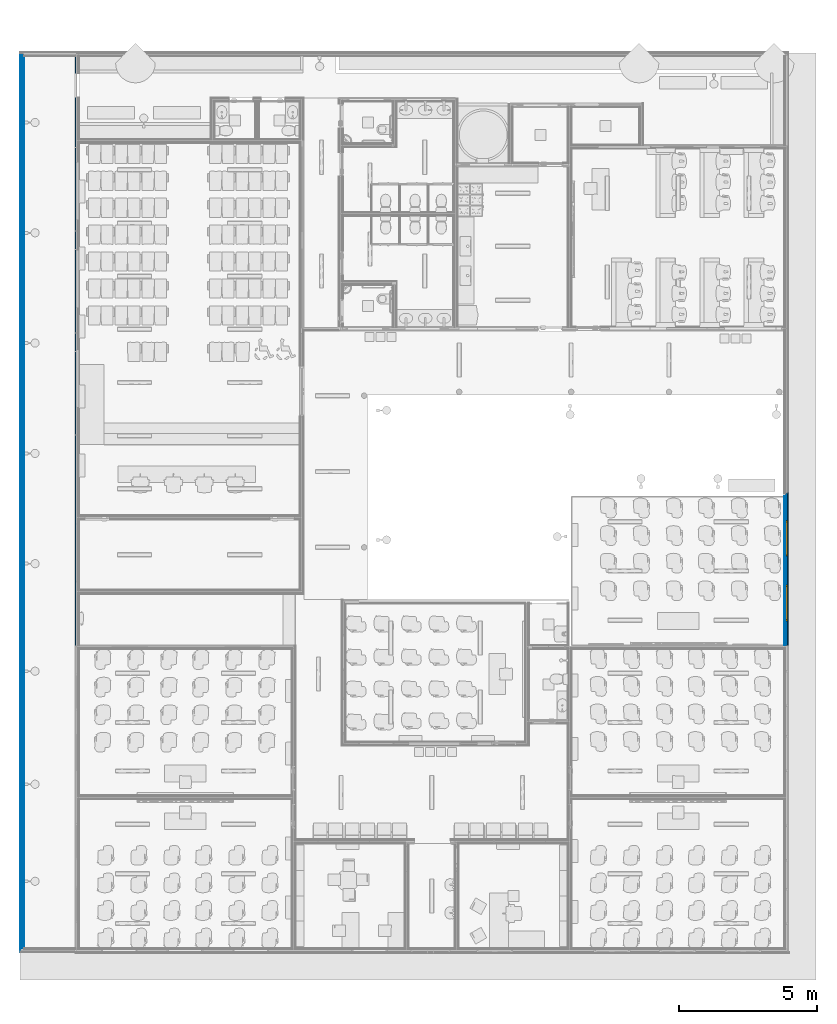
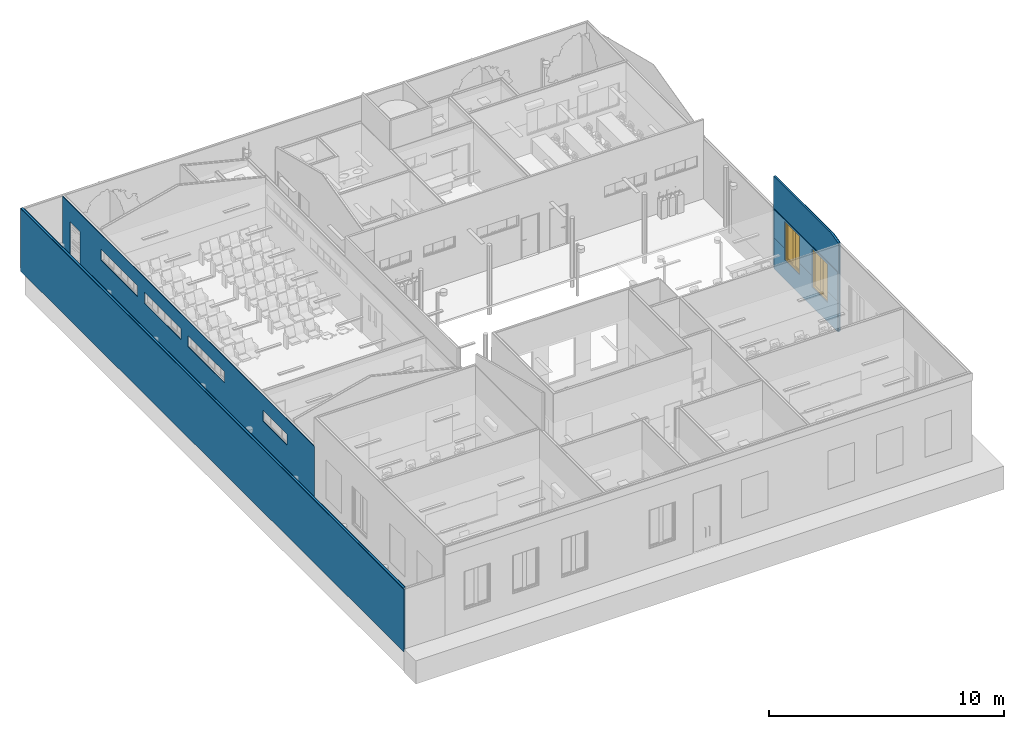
# One storey, part 25 of 155: 8 walls, 2 windows, 13 openings.
"""IFC2X3 building model written with IfcOpenShell, lengths in metres."""

from ifc_helpers import new_model, entity, si_unit, converted_unit, derived_unit, direction, frame, frame_2d, origin, origin_2d_with_axis, place, context, subcontext, project, spatial, polyline, rectangle, outline, extrude, clip, bounded_halfspace, source, transform, mapped, material, layer, layer_set, layer_usage, type_object, type_shapes, element, fill, save


model = new_model("IFC2X3")

# Units and contexts
model_context = context("Model", 3, precision=1e-05, world=origin(), true_north=direction((6.12303176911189e-17, 1.0)))
body_context = subcontext(model_context, "Body", "Model", "MODEL_VIEW")
ifc_project = project(units=[si_unit("LENGTHUNIT", "METRE"), si_unit("AREAUNIT", "SQUARE_METRE"), si_unit("VOLUMEUNIT", "CUBIC_METRE"), converted_unit("PLANEANGLEUNIT", "DEGREE", entity("IfcRatioMeasure", 0.0174532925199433), si_unit("PLANEANGLEUNIT", "RADIAN"), dimensions=[0, 0, 0, 0, 0, 0, 0]), si_unit("MASSUNIT", "GRAM", prefix="KILO"), derived_unit("MASSDENSITYUNIT", [(si_unit("MASSUNIT", "GRAM", prefix="KILO"), 1), (si_unit("LENGTHUNIT", "METRE"), -3)]), si_unit("TIMEUNIT", "SECOND"), si_unit("FREQUENCYUNIT", "HERTZ"), si_unit("THERMODYNAMICTEMPERATUREUNIT", "DEGREE_CELSIUS"), derived_unit("THERMALTRANSMITTANCEUNIT", [(si_unit("MASSUNIT", "GRAM", prefix="KILO"), 1), (si_unit("THERMODYNAMICTEMPERATUREUNIT", "KELVIN"), -1), (si_unit("TIMEUNIT", "SECOND"), -3)]), derived_unit("VOLUMETRICFLOWRATEUNIT", [(si_unit("LENGTHUNIT", "METRE"), 3), (si_unit("TIMEUNIT", "SECOND"), -1)]), si_unit("ELECTRICCURRENTUNIT", "AMPERE"), si_unit("ELECTRICVOLTAGEUNIT", "VOLT"), si_unit("POWERUNIT", "WATT"), si_unit("FORCEUNIT", "NEWTON", prefix="KILO"), si_unit("ILLUMINANCEUNIT", "LUX"), si_unit("LUMINOUSFLUXUNIT", "LUMEN"), si_unit("LUMINOUSINTENSITYUNIT", "CANDELA"), derived_unit("USERDEFINED", [(si_unit("MASSUNIT", "GRAM", prefix="KILO"), -1), (si_unit("LENGTHUNIT", "METRE"), -2), (si_unit("TIMEUNIT", "SECOND"), 3), (si_unit("LUMINOUSFLUXUNIT", "LUMEN"), 1)]), derived_unit("LINEARVELOCITYUNIT", [(si_unit("LENGTHUNIT", "METRE"), 1), (si_unit("TIMEUNIT", "SECOND"), -1)]), si_unit("PRESSUREUNIT", "PASCAL"), derived_unit("USERDEFINED", [(si_unit("LENGTHUNIT", "METRE"), -2), (si_unit("MASSUNIT", "GRAM", prefix="KILO"), 1), (si_unit("TIMEUNIT", "SECOND"), -2)])], contexts=[model_context])

# Site, building, storey
site_placement = place(None, frame((26.9889013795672, -17.5624287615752, 0.0)))
site = spatial("IfcSite", under=ifc_project, at=site_placement, Name="Default", CompositionType="ELEMENT")
building_placement = place(site_placement, origin())
building = spatial("IfcBuilding", under=site, at=building_placement, Name="C. C. L. Monsenhor Antônio Sampaio", CompositionType="ELEMENT")
storey_placement = place(building_placement, frame((0.0, 0.0, 1.19999999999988)))
storey = spatial("IfcBuildingStorey", under=building, at=storey_placement, Name="Nível 1.2", CompositionType="ELEMENT", Elevation=1.19999999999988)

# Wall
ifc_material_1 = material(Name="ALVENARIA")
ifc_layer_1 = layer(ifc_material_1, 0.09)
ifc_layer_set_1 = layer_set([ifc_layer_1], Name="Parede básica:ENucleo parede 15cm")
ifc_layer_usage_1 = layer_usage(ifc_layer_set_1, "AXIS2", "POSITIVE", -0.045)
wall_type_1 = type_object("IfcWallType", Name="Parede básica:ENucleo parede 15cm", PredefinedType="STANDARD", material=ifc_layer_set_1)
wall_1_placement = place(storey_placement, frame((-16.0654980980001, -39.3330663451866, -0.15), z_axis=(0.0, 0.0, 1.0), x_axis=(0.0, 1.0, 0.0)))
element("IfcWallStandardCase", 1, at=wall_1_placement, inside=storey, type_object=wall_type_1, material=ifc_layer_usage_1, Name="Parede básica:ENucleo parede 15cm", ObjectType="Parede básica:ENucleo parede 15cm", context=body_context, shape_type="SweptSolid", body=[
    extrude(rectangle(XDim=32.4999999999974, YDim=0.0900000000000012, at=frame_2d((16.2499999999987, -1.21430643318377e-16), x_axis=(-1.0, 0.0))), origin(), (0.0, 0.0, 1.0), 3.25000000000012),
])

# Wall, openings, windows
ifc_layer_usage_2 = layer_usage(ifc_layer_set_1, "AXIS2", "NEGATIVE", 0.045)
wall_2_placement = place(storey_placement, frame((11.6544477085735, -28.318066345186, 0.0), z_axis=(0.0, 0.0, 1.0), x_axis=(0.0, 1.0, 0.0)))
wall_2 = element("IfcWallStandardCase", 2, at=wall_2_placement, inside=storey, type_object=wall_type_1, material=ifc_layer_usage_2, Name="Parede básica:ENucleo parede 15cm", ObjectType="Parede básica:ENucleo parede 15cm", context=body_context, shape_type="Clipping", body=[
    clip(clip(clip(clip(extrude(rectangle(XDim=5.535, YDim=0.0900000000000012, at=frame_2d((2.7675, -8.98586760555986e-16), x_axis=(-1.0, 0.0))), origin(), (0.0, 0.0, 1.0), 4.75500000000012), bounded_halfspace(frame((0.635000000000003, 0.0449999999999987, 4.75500000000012), z_axis=(-0.242535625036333, 0.0, 0.970142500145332), x_axis=(0.0, -1.0, 0.0)), False, frame((0.635000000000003, 0.0449999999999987, 4.75500000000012)), polyline([(0.0, 0.0), (-0.595746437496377, 0.0), (-0.595746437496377, -0.09), (-0.0899999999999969, -0.0899999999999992), (0.0, 0.0)]))), bounded_halfspace(frame((5.535, -0.045000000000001, 4.72500000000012), z_axis=(0.242535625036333, 0.0, 0.970142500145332), x_axis=(0.0, 1.0, 0.0)), False, frame((5.535, -0.045000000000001, 4.72500000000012)), polyline([(0.0, 0.0), (0.0, 0.089999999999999), (-0.120000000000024, 0.090000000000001), (-0.0300000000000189, 0.0), (0.0, 0.0)]))), bounded_halfspace(frame((5.41499999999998, 0.045, 4.75500000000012), z_axis=(0.0, -0.242535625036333, 0.970142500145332), x_axis=(1.0, 0.0, 0.0)), False, frame((5.41499999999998, 0.045, 4.75500000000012)), polyline([(0.0, 0.0), (-4.77999999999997, 0.0), (-4.86999999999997, -0.0900000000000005), (0.0899999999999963, -0.0900000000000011), (0.0, 0.0)]))), bounded_halfspace(frame((0.0, 0.0449999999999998, 4.60000000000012), z_axis=(0.0, 0.0, 1.0), x_axis=(0.0, 1.0, 0.0)), False, frame((0.0, 0.0449999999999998, 4.60000000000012)), polyline([(0.0, 0.0), (0.0, -0.089999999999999), (0.0149999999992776, -0.089999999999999), (0.0392535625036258, -0.089999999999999), (0.0392535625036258, 0.0), (0.0150000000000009, 0.0), (0.0, 0.0)]))),
])
opening_1_placement = place(wall_2_placement, frame((2.18500000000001, 0.044999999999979, 1.0)))
opening_1 = element("IfcOpeningElement", 3, at=opening_1_placement, cuts=wall_2, Name="Janela levantamento:130 x 200cm 2:1", ObjectType="Opening", context=body_context, shape_type="SweptSolid", body=[
    extrude(rectangle(XDim=2.0, YDim=1.30000000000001, at=frame_2d((0.999999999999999, 0.650000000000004), x_axis=(1.0, 0.0))), frame((0.0, 0.0, 0.0), z_axis=(0.0, -1.0, 0.0), x_axis=(0.0, 0.0, 1.0)), (0.0, 0.0, 1.0), 0.09),
])
opening_2_placement = place(wall_2_placement, frame((4.535, 0.0449999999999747, 1.0)))
opening_2 = element("IfcOpeningElement", 4, at=opening_2_placement, cuts=wall_2, Name="Janela levantamento:130 x 200cm 2:1", ObjectType="Opening", context=body_context, shape_type="SweptSolid", body=[
    extrude(rectangle(XDim=2.0, YDim=1.30000000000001, at=frame_2d((0.999999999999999, 0.650000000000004), x_axis=(1.0, 0.0))), frame((0.0, 0.0, 0.0), z_axis=(0.0, -1.0, 0.0), x_axis=(0.0, 0.0, 1.0)), (0.0, 0.0, 1.0), 0.09),
])
ifc_material_2 = material(Name="Pintura Azul")
window_style = type_object("IfcWindowStyle", Name="130 x 200cm 2", ConstructionType="NOTDEFINED", OperationType="NOTDEFINED", ParameterTakesPrecedence=False, Sizeable=False, material=ifc_material_2)
shared_shape = source(origin(), body_context, "Body", "SweptSolid", [
    extrude(rectangle(XDim=1.3, YDim=0.0209999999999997, at=frame_2d((0.0, 4.33680868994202e-18), x_axis=(1.0, 0.0))), frame((0.650000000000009, 0.0795000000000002, 0.0)), (0.0, 0.0, 1.0), 0.0299999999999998),
    extrude(outline(polyline([(-0.325000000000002, -1.0), (0.325000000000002, -1.0), (0.325000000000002, 1.0), (-0.325000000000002, 1.0), (-0.325000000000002, -1.0)]), holes=[polyline([(0.225000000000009, -0.899999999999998), (-0.225000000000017, -0.899999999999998), (-0.225000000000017, 0.900000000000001), (0.225000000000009, 0.900000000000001), (0.225000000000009, -0.899999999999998)])]), frame((0.325000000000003, 0.0690000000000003, 1.0), z_axis=(0.0, 1.0, 0.0), x_axis=(1.0, 0.0, 0.0)), (0.0, 0.0, 1.0), 0.04),
    extrude(outline(polyline([(-0.650000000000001, -1.0), (0.650000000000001, -1.0), (0.650000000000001, 1.0), (-0.650000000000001, 1.0), (-0.650000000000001, -1.0)]), holes=[polyline([(-0.599999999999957, -0.949999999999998), (-0.599999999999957, 0.94), (0.600000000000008, 0.94), (0.600000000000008, -0.949999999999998), (-0.599999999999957, -0.949999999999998)])]), frame((0.650000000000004, 0.019, 1.0), z_axis=(0.0, 1.0, 0.0), x_axis=(1.0, 0.0, 0.0)), (0.0, 0.0, 1.0), 0.05),
    extrude(rectangle(XDim=0.0205880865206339, YDim=0.450000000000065, at=origin_2d_with_axis()), frame((0.324999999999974, 0.0987059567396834, 0.0999999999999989), z_axis=(0.0, 0.0, 1.0), x_axis=(0.0, 1.0, 0.0)), (0.0, 0.0, 1.0), 1.8),
    extrude(rectangle(XDim=0.0205880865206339, YDim=0.449999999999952, at=frame_2d((0.0, 4.16333634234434e-17), x_axis=(1.0, 0.0))), frame((0.977826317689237, 0.0987059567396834, 0.100000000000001), z_axis=(0.0, 0.0, 1.0), x_axis=(0.0, 1.0, 0.0)), (0.0, 0.0, 1.0), 1.8),
    extrude(outline(polyline([(-1.0, -0.325000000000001), (1.0, -0.325000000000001), (1.0, 0.325000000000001), (-1.0, 0.325000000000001), (-1.0, -0.325000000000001)]), holes=[polyline([(-0.899999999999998, 0.224999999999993), (0.900000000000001, 0.224999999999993), (0.900000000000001, -0.225000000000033), (-0.899999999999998, -0.225000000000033), (-0.899999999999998, 0.224999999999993)])]), frame((0.975000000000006, 0.0690000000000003, 1.0), z_axis=(0.0, 1.0, 0.0), x_axis=(0.0, 0.0, -1.0)), (0.0, 0.0, 1.0), 0.04),
])
type_shapes(window_style, [shared_shape])
window_1_placement = place(opening_1_placement, frame((0.0, 0.0, 0.0), z_axis=(0.0, 0.0, 1.0), x_axis=(-1.0, 0.0, 0.0)))
window_1 = element("IfcWindow", 5, at=window_1_placement, inside=storey, type_object=window_style, material=ifc_material_2, Name="Janela levantamento:130 x 200cm 2", ObjectType="130 x 200cm 2", OverallHeight=2.0, OverallWidth=1.30000000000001, context=body_context, shape_type="MappedRepresentation", body=[
    mapped(shared_shape, transform((0.0, 0.0, 0.0), scale=1.0)),
])
fill(opening_1, window_1)
window_2_placement = place(opening_2_placement, frame((0.0, 0.0, 0.0), z_axis=(0.0, 0.0, 1.0), x_axis=(-1.0, 0.0, 0.0)))
window_2 = element("IfcWindow", 6, at=window_2_placement, inside=storey, type_object=window_style, material=ifc_material_2, Name="Janela levantamento:130 x 200cm 2", ObjectType="130 x 200cm 2", OverallHeight=2.0, OverallWidth=1.30000000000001, context=body_context, shape_type="MappedRepresentation", body=[
    mapped(shared_shape, transform((0.0, 0.0, 0.0), scale=1.0)),
])
fill(opening_2, window_2)

# Wall, openings
ifc_material_3 = material(Name=".CERÂMICA 10x10 BRANCA")
ifc_layer_2 = layer(ifc_material_3, 0.0035)
ifc_material_4 = material(Name="Argamassa Colante")
ifc_layer_3 = layer(ifc_material_4, 0.02)
ifc_material_5 = material(Name="4")
ifc_layer_4 = layer(ifc_material_5, 0.0015)
ifc_material_6 = material(Name="3")
ifc_layer_5 = layer(ifc_material_6, 0.005)
ifc_layer_set_2 = layer_set([ifc_layer_2, ifc_layer_3, ifc_layer_4, ifc_layer_5], Name="Parede básica:ECeramica branca 10x10cm")
ifc_layer_usage_3 = layer_usage(ifc_layer_set_2, "AXIS2", "NEGATIVE", 0.015)
wall_type_2 = type_object("IfcWallType", Name="Parede básica:ECeramica branca 10x10cm", PredefinedType="STANDARD", material=ifc_layer_set_2)
wall_3_placement = place(storey_placement, frame((11.5944477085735, -28.303066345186, 0.0), z_axis=(0.0, 0.0, 1.0), x_axis=(0.0, 1.0, 0.0)))
wall_3 = element("IfcWallStandardCase", 7, at=wall_3_placement, inside=storey, type_object=wall_type_2, material=ifc_layer_usage_3, Name="Parede básica:ECeramica branca 10x10cm", ObjectType="Parede básica:ECeramica branca 10x10cm", context=body_context, shape_type="SweptSolid", body=[
    extrude(rectangle(XDim=5.39999999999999, YDim=0.0300000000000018, at=frame_2d((2.7, 2.72351585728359e-16), x_axis=(-1.0, 0.0))), origin(), (0.0, 0.0, 1.0), 1.6),
])
opening_3_placement = place(wall_3_placement, origin())
element("IfcOpeningElement", 8, at=opening_3_placement, cuts=wall_3, Name="Parede básica:ECeramica branca 10x10cm", ObjectType="Opening", context=body_context, shape_type="SweptSolid", body=[
    extrude(rectangle(XDim=2.0, YDim=1.30000000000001, at=frame_2d((0.0, -3.88578058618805e-16), x_axis=(0.0, 1.0))), frame((1.52, -1.53900000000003, 2.0), z_axis=(0.0, 1.0, 0.0), x_axis=(-1.0, 0.0, 0.0)), (0.0, 0.0, 1.0), 3.048),
])
opening_4_placement = place(wall_3_placement, origin())
element("IfcOpeningElement", 9, at=opening_4_placement, cuts=wall_3, Name="Parede básica:ECeramica branca 10x10cm", ObjectType="Opening", context=body_context, shape_type="SweptSolid", body=[
    extrude(rectangle(XDim=2.0, YDim=1.30000000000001, at=frame_2d((0.0, -3.88578058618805e-16), x_axis=(0.0, 1.0))), frame((3.87, -1.53900000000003, 2.0), z_axis=(0.0, 1.0, 0.0), x_axis=(-1.0, 0.0, 0.0)), (0.0, 0.0, 1.0), 3.048),
])

ifc_material_7 = material(Name="Acabamento Branco")
ifc_layer_6 = layer(ifc_material_7, 0.0035)
ifc_material_8 = material(Name="Massa corrida")
ifc_layer_7 = layer(ifc_material_8, 0.02)
ifc_layer_8 = layer(ifc_material_5, 0.0015)
ifc_layer_9 = layer(ifc_material_6, 0.005)
ifc_layer_set_3 = layer_set([ifc_layer_6, ifc_layer_7, ifc_layer_8, ifc_layer_9], Name="Parede básica:EPintura Branca")
ifc_layer_usage_4 = layer_usage(ifc_layer_set_3, "AXIS2", "NEGATIVE", 0.015)
wall_type_3 = type_object("IfcWallType", Name="Parede básica:EPintura Branca", PredefinedType="STANDARD", material=ifc_layer_set_3)
wall_4_placement = place(storey_placement, frame((11.5944477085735, -28.303066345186, 1.6), z_axis=(0.0, 0.0, 1.0), x_axis=(0.0, 1.0, 0.0)))
wall_4 = element("IfcWallStandardCase", 10, at=wall_4_placement, inside=storey, type_object=wall_type_3, material=ifc_layer_usage_4, Name="Parede básica:EPintura Branca", ObjectType="Parede básica:EPintura Branca", context=body_context, shape_type="SweptSolid", body=[
    extrude(rectangle(XDim=5.39999999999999, YDim=0.0300000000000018, at=frame_2d((2.7, 2.72351585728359e-16), x_axis=(-1.0, 0.0))), origin(), (0.0, 0.0, 1.0), 1.50000000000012),
])
opening_5_placement = place(wall_4_placement, origin())
element("IfcOpeningElement", 11, at=opening_5_placement, cuts=wall_4, Name="Parede básica:EPintura Branca", ObjectType="Opening", context=body_context, shape_type="SweptSolid", body=[
    extrude(rectangle(XDim=2.0, YDim=1.30000000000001, at=frame_2d((0.0, -3.88578058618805e-16), x_axis=(0.0, 1.0))), frame((1.52, -1.53900000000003, 0.400000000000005), z_axis=(0.0, 1.0, 0.0), x_axis=(-1.0, 0.0, 0.0)), (0.0, 0.0, 1.0), 3.048),
])
opening_6_placement = place(wall_4_placement, origin())
element("IfcOpeningElement", 12, at=opening_6_placement, cuts=wall_4, Name="Parede básica:EPintura Branca", ObjectType="Opening", context=body_context, shape_type="SweptSolid", body=[
    extrude(rectangle(XDim=2.0, YDim=1.30000000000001, at=frame_2d((0.0, -3.88578058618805e-16), x_axis=(0.0, 1.0))), frame((3.87, -1.53900000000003, 0.400000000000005), z_axis=(0.0, 1.0, 0.0), x_axis=(-1.0, 0.0, 0.0)), (0.0, 0.0, 1.0), 3.048),
])

ifc_material_9 = material(Name="Acabamento amarelo")
ifc_layer_10 = layer(ifc_material_9, 0.0035)
ifc_layer_11 = layer(ifc_material_8, 0.02)
ifc_layer_12 = layer(ifc_material_5, 0.0015)
ifc_layer_13 = layer(ifc_material_6, 0.005)
ifc_layer_set_4 = layer_set([ifc_layer_10, ifc_layer_11, ifc_layer_12, ifc_layer_13], Name="Parede básica:EPintura amarela")
ifc_layer_usage_5 = layer_usage(ifc_layer_set_4, "AXIS2", "POSITIVE", -0.015)
wall_type_4 = type_object("IfcWallType", Name="Parede básica:EPintura amarela", PredefinedType="STANDARD", material=ifc_layer_set_4)
wall_5_placement = place(storey_placement, frame((11.7144477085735, -28.3030663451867, 0.0), z_axis=(0.0, 0.0, 1.0), x_axis=(0.0, 1.0, 0.0)))
wall_5 = element("IfcWallStandardCase", 13, at=wall_5_placement, inside=storey, type_object=wall_type_4, material=ifc_layer_usage_5, Name="Parede básica:EPintura amarela", ObjectType="Parede básica:EPintura amarela", context=body_context, shape_type="Clipping", body=[
    clip(clip(clip(clip(extrude(rectangle(XDim=5.52, YDim=0.0300000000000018, at=frame_2d((2.76, 1.22298005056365e-16), x_axis=(-1.0, 0.0))), origin(), (0.0, 0.0, 1.0), 4.73250000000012), bounded_halfspace(frame((0.530000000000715, 0.0150000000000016, 4.73250000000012), z_axis=(-0.242535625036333, 0.0, 0.970142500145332), x_axis=(0.0, -1.0, 0.0)), False, frame((0.530000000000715, 0.0150000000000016, 4.73250000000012)), polyline([(0.0, 0.0), (-0.505746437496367, 0.0), (-0.505746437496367, -0.0300000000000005), (-0.0300000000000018, -0.0299999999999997), (0.0, 0.0)]))), bounded_halfspace(frame((5.52, -0.0149999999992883, 4.7250000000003), z_axis=(0.242535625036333, 0.0, 0.970142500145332), x_axis=(0.0, 1.0, 0.0)), False, frame((5.52, -0.0149999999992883, 4.7250000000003)), polyline([(0.0, 0.0), (0.0, 0.0299999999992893), (-0.0299999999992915, 0.0299999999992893), (0.0, 0.0)]))), bounded_halfspace(frame((5.49000000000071, 0.0150000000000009, 4.73250000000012), z_axis=(0.0, -0.242535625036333, 0.970142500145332), x_axis=(1.0, 0.0, 0.0)), False, frame((5.49000000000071, 0.0150000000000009, 4.73250000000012)), polyline([(0.0, 0.0), (-4.96, 0.0), (-4.99, -0.0300000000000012), (0.0299999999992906, -0.0299999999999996), (0.0, 0.0)]))), bounded_halfspace(frame((0.0, 0.0150000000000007, 4.60000000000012), z_axis=(0.0, 0.0, 1.0), x_axis=(0.0, 1.0, 0.0)), False, frame((0.0, 0.0150000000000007, 4.60000000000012)), polyline([(0.0, 0.0), (0.0, -0.0299999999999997), (0.0242535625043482, -0.0299999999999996), (0.0242535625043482, 0.0), (0.0, 0.0)]))),
])
opening_7_placement = place(wall_5_placement, origin())
element("IfcOpeningElement", 14, at=opening_7_placement, cuts=wall_5, Name="Parede básica:EPintura amarela", ObjectType="Opening", context=body_context, shape_type="SweptSolid", body=[
    extrude(rectangle(XDim=2.0, YDim=1.30000000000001, at=frame_2d((0.0, -3.88578058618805e-16), x_axis=(0.0, 1.0))), frame((1.52000000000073, -1.419, 2.0), z_axis=(0.0, 1.0, 0.0), x_axis=(-1.0, 0.0, 0.0)), (0.0, 0.0, 1.0), 3.048),
])
opening_8_placement = place(wall_5_placement, origin())
element("IfcOpeningElement", 15, at=opening_8_placement, cuts=wall_5, Name="Parede básica:EPintura amarela", ObjectType="Opening", context=body_context, shape_type="SweptSolid", body=[
    extrude(rectangle(XDim=2.0, YDim=1.30000000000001, at=frame_2d((0.0, -3.88578058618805e-16), x_axis=(0.0, 1.0))), frame((3.87000000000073, -1.419, 2.0), z_axis=(0.0, 1.0, 0.0), x_axis=(-1.0, 0.0, 0.0)), (0.0, 0.0, 1.0), 3.048),
])

# Walls
ifc_layer_usage_6 = layer_usage(ifc_layer_set_4, "AXIS2", "POSITIVE", -0.015)
wall_6_placement = place(storey_placement, frame((-16.1254980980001, -6.83306634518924, -0.15), z_axis=(0.0, 0.0, 1.0), x_axis=(0.0, -1.0, 0.0)))
element("IfcWallStandardCase", 16, at=wall_6_placement, inside=storey, type_object=wall_type_4, material=ifc_layer_usage_6, Name="Parede básica:EPintura amarela", ObjectType="Parede básica:EPintura amarela", context=body_context, shape_type="SweptSolid", body=[
    extrude(rectangle(XDim=32.6199999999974, YDim=0.0300000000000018, at=frame_2d((16.3099999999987, 2.42861286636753e-17), x_axis=(-1.0, 0.0))), origin(), (0.0, 0.0, 1.0), 3.25000000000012),
])
ifc_layer_usage_7 = layer_usage(ifc_layer_set_4, "AXIS2", "POSITIVE", -0.015)
wall_7_placement = place(storey_placement, frame((-16.0054980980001, -39.3330663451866, -0.16), z_axis=(0.0, 0.0, 1.0), x_axis=(0.0, 1.0, 0.0)))
element("IfcWallStandardCase", 17, at=wall_7_placement, inside=storey, type_object=wall_type_4, material=ifc_layer_usage_7, Name="Parede básica:EPintura amarela", ObjectType="Parede básica:EPintura amarela", context=body_context, shape_type="SweptSolid", body=[
    extrude(rectangle(XDim=32.4099999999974, YDim=0.0300000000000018, at=frame_2d((16.2049999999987, 0.0), x_axis=(-1.0, 0.0))), origin(), (0.0, 0.0, 1.0), 3.26000000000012),
])

# Wall, openings
ifc_layer_usage_8 = layer_usage(ifc_layer_set_4, "AXIS2", "POSITIVE", -0.015)
wall_8_placement = place(storey_placement, frame((-14.125552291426, -6.95306634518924, 0.0), z_axis=(0.0, 0.0, 1.0), x_axis=(0.0, -1.0, 0.0)))
wall_8 = element("IfcWallStandardCase", 18, at=wall_8_placement, inside=storey, type_object=wall_type_4, material=ifc_layer_usage_8, Name="Parede básica:EPintura amarela", ObjectType="Parede básica:EPintura amarela", context=body_context, shape_type="SweptSolid", body=[
    extrude(rectangle(XDim=21.4249999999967, YDim=0.0300000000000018, at=frame_2d((10.7124999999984, 3.55618312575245e-17), x_axis=(-1.0, 0.0))), origin(), (0.0, 0.0, 1.0), 3.10000000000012),
])
opening_9_placement = place(wall_8_placement, origin())
element("IfcOpeningElement", 19, at=opening_9_placement, cuts=wall_8, Name="Parede básica:EPintura amarela", ObjectType="Opening", context=body_context, shape_type="SweptSolid", body=[
    extrude(rectangle(XDim=0.569999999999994, YDim=3.07, at=frame_2d((0.0, 2.77555756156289e-16), x_axis=(0.0, 1.0))), frame((4.81999999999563, -1.419, 2.05000000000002), z_axis=(0.0, 1.0, 0.0), x_axis=(-1.0, 0.0, 0.0)), (0.0, 0.0, 1.0), 3.048),
])
opening_10_placement = place(wall_8_placement, origin())
element("IfcOpeningElement", 20, at=opening_10_placement, cuts=wall_8, Name="Parede básica:EPintura amarela", ObjectType="Opening", context=body_context, shape_type="SweptSolid", body=[
    extrude(rectangle(XDim=0.569999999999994, YDim=3.07, at=frame_2d((0.0, 2.77555756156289e-16), x_axis=(0.0, 1.0))), frame((8.51999999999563, -1.41899999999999, 2.05000000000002), z_axis=(0.0, 1.0, 0.0), x_axis=(-1.0, 0.0, 0.0)), (0.0, 0.0, 1.0), 3.048),
])
opening_11_placement = place(wall_8_placement, origin())
element("IfcOpeningElement", 21, at=opening_11_placement, cuts=wall_8, Name="Parede básica:EPintura amarela", ObjectType="Opening", context=body_context, shape_type="SweptSolid", body=[
    extrude(rectangle(XDim=0.569999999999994, YDim=3.07, at=frame_2d((1.11022302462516e-15, 2.77555756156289e-16), x_axis=(0.0, 1.0))), frame((12.2199999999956, -1.419, 2.05000000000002), z_axis=(0.0, 1.0, 0.0), x_axis=(-1.0, 0.0, 0.0)), (0.0, 0.0, 1.0), 3.048),
])
opening_12_placement = place(wall_8_placement, origin())
element("IfcOpeningElement", 22, at=opening_12_placement, cuts=wall_8, Name="Parede básica:EPintura amarela", ObjectType="Opening", context=body_context, shape_type="SweptSolid", body=[
    extrude(rectangle(XDim=0.570000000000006, YDim=2.07, at=frame_2d((0.0, 2.77555756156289e-16), x_axis=(0.0, 1.0))), frame((18.0599999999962, -1.419, 2.05000000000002), z_axis=(0.0, 1.0, 0.0), x_axis=(-1.0, 0.0, 0.0)), (0.0, 0.0, 1.0), 3.048),
])
opening_13_placement = place(wall_8_placement, origin())
element("IfcOpeningElement", 23, at=opening_13_placement, cuts=wall_8, Name="Parede básica:EPintura amarela", ObjectType="Opening", context=body_context, shape_type="SweptSolid", body=[
    extrude(rectangle(XDim=2.15999999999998, YDim=0.879999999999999, at=frame_2d((0.0, 0.0), x_axis=(0.0, 1.0))), frame((1.06, -1.509, 1.07999999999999), z_axis=(0.0, 1.0, 0.0), x_axis=(-1.0, 0.0, 0.0)), (0.0, 0.0, 1.0), 3.048),
])

save(model, "model.ifc")
